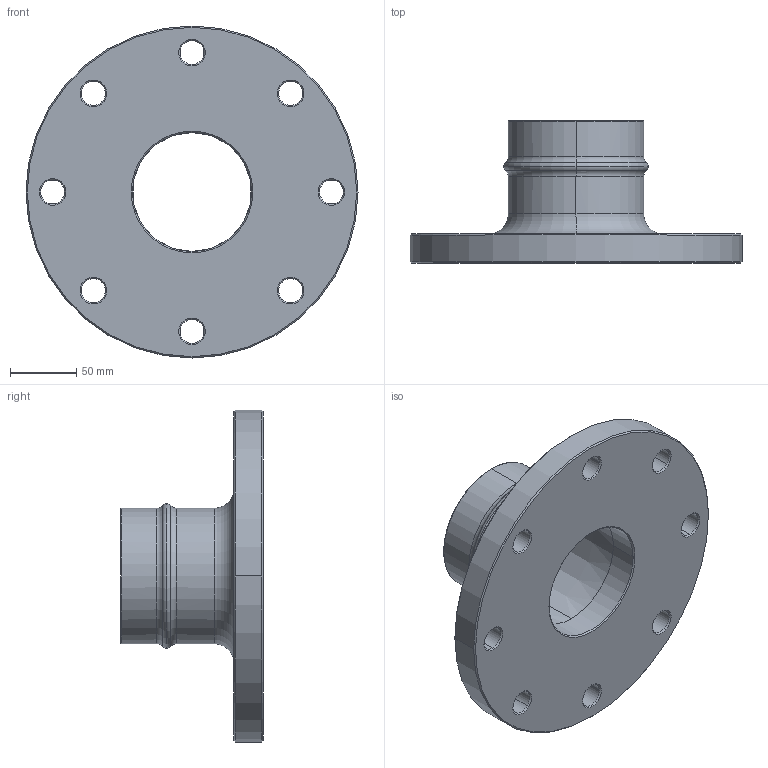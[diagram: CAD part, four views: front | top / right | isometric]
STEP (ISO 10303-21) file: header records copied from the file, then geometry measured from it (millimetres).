
FILE_DESCRIPTION((''),'2;1');
FILE_NAME('AU15087100','2019-12-13T',('Administrator'),(''),'PRO/ENGINEER BY PARAMETRIC TECHNOLOGY CORPORATION, 2009360','PRO/ENGINEER BY PARAMETRIC TECHNOLOGY CORPORATION, 2009360','');
FILE_SCHEMA(('AUTOMOTIVE_DESIGN_CC2 { 1 2 10303 214 -1 1 5 2 }'));
Length unit declared in the file: millimetre
Products named in the file (1): AU15087100
Bounding box: 250 x 107.25 x 250 mm (x, y, z)
Volume: 1067154.3 mm3; surface area: 163371.3 mm2
Topology: 1 solids, 1 shells, 85 faces, 196 edges, 114 vertices
Faces by surface type: cone 44, cylinder 24, torus 14, plane 3
Entity records: 3073 total; most frequent: DIRECTION 494, CARTESIAN_POINT 395, ORIENTED_EDGE 392, AXIS2_PLACEMENT_3D 213, PRESENTATION_STYLE_ASSIGNMENT 197, STYLED_ITEM 197, CURVE_STYLE 196, EDGE_CURVE 196
